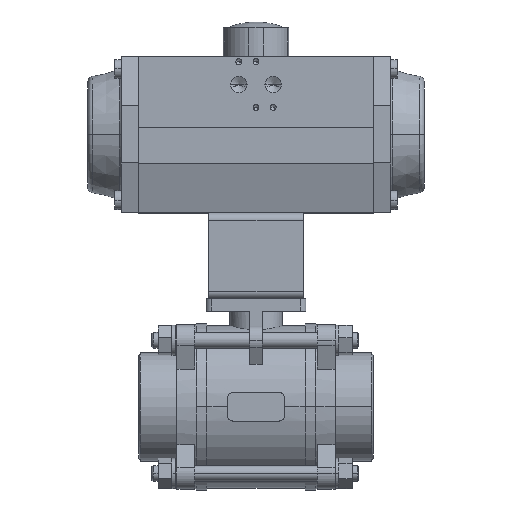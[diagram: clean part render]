
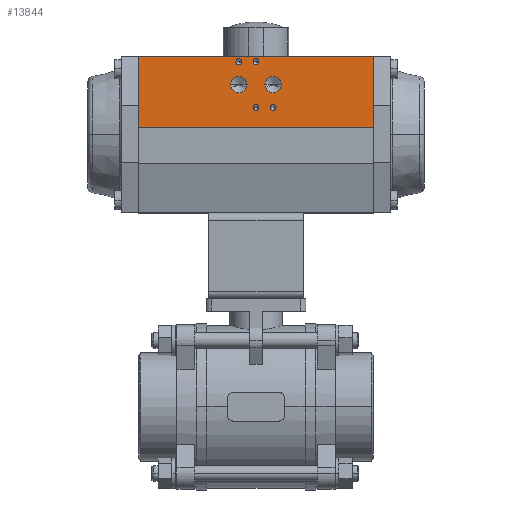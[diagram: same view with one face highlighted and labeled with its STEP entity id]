
A CAD part, top view. The second image highlights one B-rep face of the part: STEP entity #13844.
In plain terms, the highlighted planar face has unit normal (0, 0, 1) as drawn and (1, 0, 0) by its records, which use the part's own axes.
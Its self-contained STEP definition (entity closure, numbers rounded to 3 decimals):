
#558 = EDGE_CURVE ( 'NONE', #7286, #6569, #6738, .T. ) ;
#570 = EDGE_CURVE ( 'NONE', #7247, #7259, #6724, .T. ) ;
#577 = EDGE_CURVE ( 'NONE', #7238, #13414, #6713, .T. ) ;
#592 = EDGE_CURVE ( 'NONE', #6316, #6287, #6695, .T. ) ;
#598 = EDGE_CURVE ( 'NONE', #15832, #7272, #6687, .T. ) ;
#607 = EDGE_CURVE ( 'NONE', #6181, #7266, #6911, .T. ) ;
#2169 = CARTESIAN_POINT ( 'NONE',  ( 53., 5., 82.5 ) ) ;
#2170 = CARTESIAN_POINT ( 'NONE',  ( 53., 35., 17.722 ) ) ;
#2192 = CARTESIAN_POINT ( 'NONE',  ( 53., 51., -2.1 ) ) ;
#2203 = CARTESIAN_POINT ( 'NONE',  ( 53., 51., 2.1 ) ) ;
#2237 = CARTESIAN_POINT ( 'NONE',  ( 53., 51., 9.9 ) ) ;
#2287 = CARTESIAN_POINT ( 'NONE',  ( 53., 55., -82.5 ) ) ;
#2337 = CARTESIAN_POINT ( 'NONE',  ( 53., 19., 2.1 ) ) ;
#2354 = CARTESIAN_POINT ( 'NONE',  ( 53., 19., -9.9 ) ) ;
#2366 = CARTESIAN_POINT ( 'NONE',  ( 53., 19., -14.1 ) ) ;
#2373 = CARTESIAN_POINT ( 'NONE',  ( 53., 35., 6.277 ) ) ;
#2379 = CARTESIAN_POINT ( 'NONE',  ( 53., 35., -17.722 ) ) ;
#2393 = CARTESIAN_POINT ( 'NONE',  ( 53., 51., 14.1 ) ) ;
#4075 = CARTESIAN_POINT ( 'NONE',  ( 53., 51., 0. ) ) ;
#4076 = DIRECTION ( 'NONE',  ( 1., 0., 0. ) ) ;
#4077 = DIRECTION ( 'NONE',  ( 0., 0., -1. ) ) ;
#4093 = CARTESIAN_POINT ( 'NONE',  ( 53., 35., -12. ) ) ;
#4094 = DIRECTION ( 'NONE',  ( 1., 0., 0. ) ) ;
#4095 = DIRECTION ( 'NONE',  ( 0., 0., -1. ) ) ;
#4120 = CARTESIAN_POINT ( 'NONE',  ( 53., 35., 12. ) ) ;
#4121 = DIRECTION ( 'NONE',  ( 1., 0., 0. ) ) ;
#4122 = DIRECTION ( 'NONE',  ( 0., 0., -1. ) ) ;
#5983 = ORIENTED_EDGE ( 'NONE', *, *, #13976, .F. ) ;
#5985 = ORIENTED_EDGE ( 'NONE', *, *, #558, .F. ) ;
#5987 = ORIENTED_EDGE ( 'NONE', *, *, #13978, .F. ) ;
#5989 = ORIENTED_EDGE ( 'NONE', *, *, #570, .F. ) ;
#5991 = ORIENTED_EDGE ( 'NONE', *, *, #13996, .F. ) ;
#5992 = ORIENTED_EDGE ( 'NONE', *, *, #577, .F. ) ;
#5994 = ORIENTED_EDGE ( 'NONE', *, *, #13998, .F. ) ;
#5996 = ORIENTED_EDGE ( 'NONE', *, *, #592, .F. ) ;
#5998 = ORIENTED_EDGE ( 'NONE', *, *, #14029, .F. ) ;
#6000 = ORIENTED_EDGE ( 'NONE', *, *, #598, .F. ) ;
#6002 = ORIENTED_EDGE ( 'NONE', *, *, #14031, .F. ) ;
#6003 = ORIENTED_EDGE ( 'NONE', *, *, #607, .F. ) ;
#6005 = ORIENTED_EDGE ( 'NONE', *, *, #13982, .T. ) ;
#6007 = ORIENTED_EDGE ( 'NONE', *, *, #14118, .F. ) ;
#6009 = ORIENTED_EDGE ( 'NONE', *, *, #14080, .F. ) ;
#6011 = ORIENTED_EDGE ( 'NONE', *, *, #14030, .T. ) ;
#6175 = VERTEX_POINT ( 'NONE', #2169 ) ;
#6181 = VERTEX_POINT ( 'NONE', #2170 ) ;
#6287 = VERTEX_POINT ( 'NONE', #2192 ) ;
#6316 = VERTEX_POINT ( 'NONE', #2203 ) ;
#6569 = VERTEX_POINT ( 'NONE', #2237 ) ;
#6666 = VERTEX_POINT ( 'NONE', #2287 ) ;
#6683 = AXIS2_PLACEMENT_3D ( 'NONE', #4093, #4094, #4095 ) ;
#6687 = CIRCLE ( 'NONE', #6683, 5.722 ) ;
#6691 = AXIS2_PLACEMENT_3D ( 'NONE', #4075, #4076, #4077 ) ;
#6695 = CIRCLE ( 'NONE', #6691, 2.1 ) ;
#6709 = AXIS2_PLACEMENT_3D ( 'NONE', #11489, #11490, #11491 ) ;
#6713 = CIRCLE ( 'NONE', #6709, 2.1 ) ;
#6718 = AXIS2_PLACEMENT_3D ( 'NONE', #11468, #11469, #11470 ) ;
#6724 = CIRCLE ( 'NONE', #6718, 2.1 ) ;
#6736 = AXIS2_PLACEMENT_3D ( 'NONE', #11430, #11431, #11432 ) ;
#6738 = CIRCLE ( 'NONE', #6736, 2.1 ) ;
#6908 = AXIS2_PLACEMENT_3D ( 'NONE', #4120, #4121, #4122 ) ;
#6911 = CIRCLE ( 'NONE', #6908, 5.722 ) ;
#7238 = VERTEX_POINT ( 'NONE', #2337 ) ;
#7247 = VERTEX_POINT ( 'NONE', #2354 ) ;
#7259 = VERTEX_POINT ( 'NONE', #2366 ) ;
#7266 = VERTEX_POINT ( 'NONE', #2373 ) ;
#7272 = VERTEX_POINT ( 'NONE', #2379 ) ;
#7286 = VERTEX_POINT ( 'NONE', #2393 ) ;
#7750 = VECTOR ( 'NONE', #10185, 1000. ) ;
#7795 = VECTOR ( 'NONE', #10071, 1000. ) ;
#7849 = AXIS2_PLACEMENT_3D ( 'NONE', #9924, #9925, #9926 ) ;
#7851 = CIRCLE ( 'NONE', #7849, 5.722 ) ;
#7852 = AXIS2_PLACEMENT_3D ( 'NONE', #9918, #9919, #9920 ) ;
#7853 = VECTOR ( 'NONE', #9921, 1000. ) ;
#7854 = CIRCLE ( 'NONE', #7852, 5.722 ) ;
#8473 = CARTESIAN_POINT ( 'NONE',  ( 53., 19., -2.1 ) ) ;
#8480 = CARTESIAN_POINT ( 'NONE',  ( 53., 55., 82.5 ) ) ;
#8973 = CARTESIAN_POINT ( 'NONE',  ( 53., 5., -82.5 ) ) ;
#8977 = FACE_BOUND ( 'NONE', #11871, .T. ) ;
#8980 = FACE_BOUND ( 'NONE', #11867, .T. ) ;
#8981 = FACE_BOUND ( 'NONE', #11866, .T. ) ;
#8982 = FACE_BOUND ( 'NONE', #11868, .T. ) ;
#8983 = FACE_OUTER_BOUND ( 'NONE', #11864, .T. ) ;
#8984 = FACE_BOUND ( 'NONE', #11865, .T. ) ;
#8985 = PLANE ( 'NONE',  #15973 ) ;
#8986 = FACE_BOUND ( 'NONE', #11872, .T. ) ;
#8989 = DIRECTION ( 'NONE',  ( 1., 0., 0. ) ) ;
#8990 = DIRECTION ( 'NONE',  ( 0., 0., -1. ) ) ;
#9755 = CARTESIAN_POINT ( 'NONE',  ( 53., 51., 12. ) ) ;
#9756 = DIRECTION ( 'NONE',  ( 1., 0., 0. ) ) ;
#9757 = DIRECTION ( 'NONE',  ( 0., 0., -1. ) ) ;
#9763 = CARTESIAN_POINT ( 'NONE',  ( 53., 19., -12. ) ) ;
#9764 = DIRECTION ( 'NONE',  ( 1., 0., 0. ) ) ;
#9765 = DIRECTION ( 'NONE',  ( 0., 0., -1. ) ) ;
#9767 = LINE ( 'NONE', #9776, #13574 ) ;
#9776 = CARTESIAN_POINT ( 'NONE',  ( 53., 55., -82.5 ) ) ;
#9778 = DIRECTION ( 'NONE',  ( 0., 0., 1. ) ) ;
#9818 = CARTESIAN_POINT ( 'NONE',  ( 53., 19., 0. ) ) ;
#9819 = DIRECTION ( 'NONE',  ( 1., 0., 0. ) ) ;
#9820 = DIRECTION ( 'NONE',  ( 0., 0., -1. ) ) ;
#9824 = CARTESIAN_POINT ( 'NONE',  ( 53., 51., 0. ) ) ;
#9825 = DIRECTION ( 'NONE',  ( 1., 0., 0. ) ) ;
#9826 = DIRECTION ( 'NONE',  ( 0., 0., -1. ) ) ;
#9907 = CARTESIAN_POINT ( 'NONE',  ( 53., 5., -82.5 ) ) ;
#9912 = LINE ( 'NONE', #9907, #7853 ) ;
#9918 = CARTESIAN_POINT ( 'NONE',  ( 53., 35., -12. ) ) ;
#9919 = DIRECTION ( 'NONE',  ( 1., 0., 0. ) ) ;
#9920 = DIRECTION ( 'NONE',  ( 0., 0., -1. ) ) ;
#9921 = DIRECTION ( 'NONE',  ( 0., 1., 0. ) ) ;
#9924 = CARTESIAN_POINT ( 'NONE',  ( 53., 35., 12. ) ) ;
#9925 = DIRECTION ( 'NONE',  ( 1., 0., 0. ) ) ;
#9926 = DIRECTION ( 'NONE',  ( 0., 0., -1. ) ) ;
#10069 = LINE ( 'NONE', #10070, #7795 ) ;
#10070 = CARTESIAN_POINT ( 'NONE',  ( 53., 5., -82.5 ) ) ;
#10071 = DIRECTION ( 'NONE',  ( 0., 0., 1. ) ) ;
#10165 = LINE ( 'NONE', #10166, #7750 ) ;
#10166 = CARTESIAN_POINT ( 'NONE',  ( 53., 5., 82.5 ) ) ;
#10185 = DIRECTION ( 'NONE',  ( 0., 1., 0. ) ) ;
#10596 = CARTESIAN_POINT ( 'NONE',  ( 53., 5., -82.5 ) ) ;
#10597 = CARTESIAN_POINT ( 'NONE',  ( 53., 35., -6.277 ) ) ;
#11430 = CARTESIAN_POINT ( 'NONE',  ( 53., 51., 12. ) ) ;
#11431 = DIRECTION ( 'NONE',  ( 1., 0., 0. ) ) ;
#11432 = DIRECTION ( 'NONE',  ( 0., 0., -1. ) ) ;
#11468 = CARTESIAN_POINT ( 'NONE',  ( 53., 19., -12. ) ) ;
#11469 = DIRECTION ( 'NONE',  ( 1., 0., 0. ) ) ;
#11470 = DIRECTION ( 'NONE',  ( 0., 0., -1. ) ) ;
#11489 = CARTESIAN_POINT ( 'NONE',  ( 53., 19., 0. ) ) ;
#11490 = DIRECTION ( 'NONE',  ( 1., 0., 0. ) ) ;
#11491 = DIRECTION ( 'NONE',  ( 0., 0., -1. ) ) ;
#11864 = EDGE_LOOP ( 'NONE', ( #6005, #6007, #6009, #6011 ) ) ;
#11865 = EDGE_LOOP ( 'NONE', ( #5991, #5992 ) ) ;
#11866 = EDGE_LOOP ( 'NONE', ( #5983, #5985 ) ) ;
#11867 = EDGE_LOOP ( 'NONE', ( #5998, #6000 ) ) ;
#11868 = EDGE_LOOP ( 'NONE', ( #6002, #6003 ) ) ;
#11871 = EDGE_LOOP ( 'NONE', ( #5987, #5989 ) ) ;
#11872 = EDGE_LOOP ( 'NONE', ( #5994, #5996 ) ) ;
#13414 = VERTEX_POINT ( 'NONE', #8473 ) ;
#13420 = VERTEX_POINT ( 'NONE', #8480 ) ;
#13563 = CIRCLE ( 'NONE', #13664, 2.1 ) ;
#13564 = AXIS2_PLACEMENT_3D ( 'NONE', #9763, #9764, #9765 ) ;
#13570 = CIRCLE ( 'NONE', #13564, 2.1 ) ;
#13571 = AXIS2_PLACEMENT_3D ( 'NONE', #9755, #9756, #9757 ) ;
#13574 = VECTOR ( 'NONE', #9778, 1000. ) ;
#13575 = CIRCLE ( 'NONE', #13571, 2.1 ) ;
#13578 = AXIS2_PLACEMENT_3D ( 'NONE', #9818, #9819, #9820 ) ;
#13580 = CIRCLE ( 'NONE', #13578, 2.1 ) ;
#13664 = AXIS2_PLACEMENT_3D ( 'NONE', #9824, #9825, #9826 ) ;
#13844 = ADVANCED_FACE ( 'NONE', ( #8981, #8977, #8984, #8986, #8980, #8982, #8983 ), #8985, .T. ) ;
#13976 = EDGE_CURVE ( 'NONE', #6569, #7286, #13575, .T. ) ;
#13978 = EDGE_CURVE ( 'NONE', #7259, #7247, #13570, .T. ) ;
#13982 = EDGE_CURVE ( 'NONE', #6666, #13420, #9767, .T. ) ;
#13996 = EDGE_CURVE ( 'NONE', #13414, #7238, #13580, .T. ) ;
#13998 = EDGE_CURVE ( 'NONE', #6287, #6316, #13563, .T. ) ;
#14029 = EDGE_CURVE ( 'NONE', #7272, #15832, #7854, .T. ) ;
#14030 = EDGE_CURVE ( 'NONE', #15831, #6666, #9912, .T. ) ;
#14031 = EDGE_CURVE ( 'NONE', #7266, #6181, #7851, .T. ) ;
#14080 = EDGE_CURVE ( 'NONE', #15831, #6175, #10069, .T. ) ;
#14118 = EDGE_CURVE ( 'NONE', #6175, #13420, #10165, .T. ) ;
#15831 = VERTEX_POINT ( 'NONE', #10596 ) ;
#15832 = VERTEX_POINT ( 'NONE', #10597 ) ;
#15973 = AXIS2_PLACEMENT_3D ( 'NONE', #8973, #8989, #8990 ) ;
